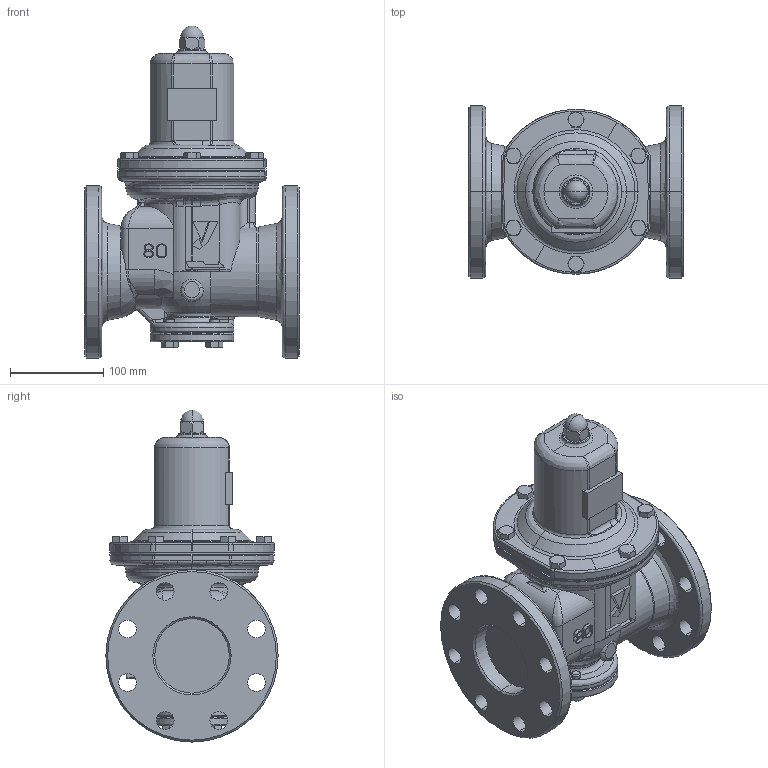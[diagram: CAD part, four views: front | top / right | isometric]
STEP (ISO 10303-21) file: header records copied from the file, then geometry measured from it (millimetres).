
FILE_DESCRIPTION( (''), '2;1');
FILE_NAME ('PC1276.1936.GD-27S-NE 80A_21376.stp','2025-06-13T13:18:57',(''),(''),'spGate 20.6.3 (****-****-****-****)','','');
FILE_SCHEMA (('AUTOMOTIVE_DESIGN'));
Length unit declared in the file: millimetre
Products named in the file (8): Assembly; 弁箱　80A; ダイヤフラム65A; 保護筒; カバー　65A; CP_''_JIS B 1183 六角袋ナット 3形 M''_705; プラグ; CP_''_JIS B 1180 呼び径六角ボルト''_M10-25
Assembly tree (16 placements, depth 2):
  Assembly
    弁箱　80A
    ダイヤフラム65A
    保護筒
    カバー　65A
    CP_''_JIS B 1183 六角袋ナット 3形 M''_705
    プラグ
    CP_''_JIS B 1180 呼び径六角ボルト''_M10-25  x10
Bounding box: 230 x 185 x 356.5 mm (x, y, z)
Volume: 3649920.6 mm3; surface area: 453980 mm2
Topology: 16 solids, 16 shells, 803 faces, 1963 edges, 1198 vertices
Faces by surface type: bspline 349, cylinder 225, plane 218, sphere 11
Entity records: 39007 total; most frequent: CARTESIAN_POINT 14861, ORIENTED_EDGE 2992, COLOUR_RGB 2090, PRESENTATION_STYLE_ASSIGNMENT 2090, STYLED_ITEM 2090, DIRECTION 2072, EDGE_CURVE 1496, DRAUGHTING_PRE_DEFINED_CURVE_FONT 1496
